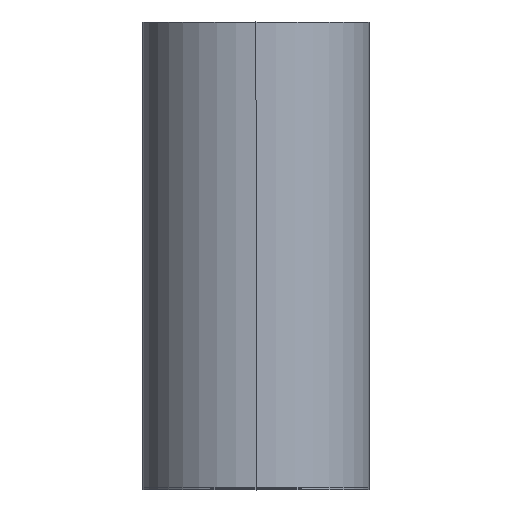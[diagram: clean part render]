
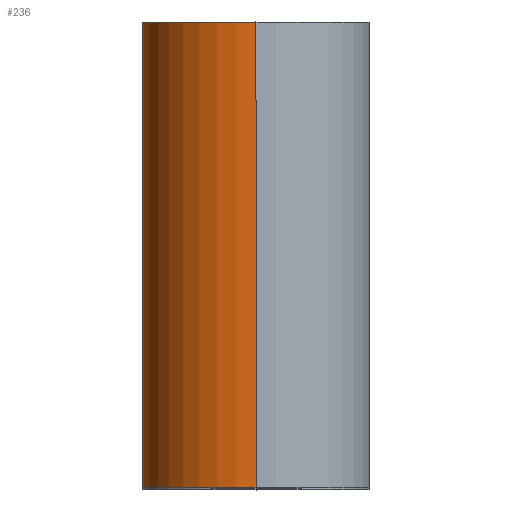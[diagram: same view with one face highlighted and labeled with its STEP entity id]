
A CAD part, top view. The second image highlights one B-rep face of the part: STEP entity #236.
In plain terms, the highlighted cylindrical face has radius 2 mm (diameter 4 mm), a partial arc.
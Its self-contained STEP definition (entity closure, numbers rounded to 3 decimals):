
#43 = VERTEX_POINT ( 'NONE', #179 ) ;
#98 = ORIENTED_EDGE ( 'NONE', *, *, #99, .T. ) ;
#99 = EDGE_CURVE ( 'NONE', #238, #242, #161, .T. ) ;
#100 = ORIENTED_EDGE ( 'NONE', *, *, #115, .T. ) ;
#101 = VERTEX_POINT ( 'NONE', #443 ) ;
#115 = EDGE_CURVE ( 'NONE', #256, #101, #346, .T. ) ;
#116 = VERTEX_POINT ( 'NONE', #342 ) ;
#117 = EDGE_LOOP ( 'NONE', ( #239, #98, #250, #100, #240, #260 ) ) ;
#158 = DIRECTION ( 'NONE',  ( 0., -1., 0. ) ) ;
#159 = VECTOR ( 'NONE', #158, 1000. ) ;
#160 = CARTESIAN_POINT ( 'NONE',  ( 0., 8.2, 2. ) ) ;
#161 = LINE ( 'NONE', #160, #159 ) ;
#179 = CARTESIAN_POINT ( 'NONE',  ( 0., 8.2, -2. ) ) ;
#236 = ADVANCED_FACE ( 'NONE', ( #513 ), #511, .T. ) ;
#238 = VERTEX_POINT ( 'NONE', #553 ) ;
#239 = ORIENTED_EDGE ( 'NONE', *, *, #264, .F. ) ;
#240 = ORIENTED_EDGE ( 'NONE', *, *, #241, .T. ) ;
#241 = EDGE_CURVE ( 'NONE', #101, #116, #552, .T. ) ;
#242 = VERTEX_POINT ( 'NONE', #663 ) ;
#250 = ORIENTED_EDGE ( 'NONE', *, *, #255, .T. ) ;
#255 = EDGE_CURVE ( 'NONE', #242, #256, #649, .T. ) ;
#256 = VERTEX_POINT ( 'NONE', #648 ) ;
#260 = ORIENTED_EDGE ( 'NONE', *, *, #261, .F. ) ;
#261 = EDGE_CURVE ( 'NONE', #43, #116, #638, .T. ) ;
#264 = EDGE_CURVE ( 'NONE', #238, #43, #631, .T. ) ;
#342 = CARTESIAN_POINT ( 'NONE',  ( 0., 0., -2. ) ) ;
#343 = DIRECTION ( 'NONE',  ( 0., -1., 0. ) ) ;
#344 = VECTOR ( 'NONE', #343, 1000. ) ;
#345 = CARTESIAN_POINT ( 'NONE',  ( 0., 8.2, 2. ) ) ;
#346 = LINE ( 'NONE', #345, #344 ) ;
#443 = CARTESIAN_POINT ( 'NONE',  ( 0., 0., 2. ) ) ;
#511 = CYLINDRICAL_SURFACE ( 'NONE', #512, 2. ) ;
#512 = AXIS2_PLACEMENT_3D ( 'NONE', #556, #555, #554 ) ;
#513 = FACE_OUTER_BOUND ( 'NONE', #117, .T. ) ;
#549 = DIRECTION ( 'NONE',  ( 0., 1., 0. ) ) ;
#550 = CARTESIAN_POINT ( 'NONE',  ( 0., 0., 0. ) ) ;
#551 = AXIS2_PLACEMENT_3D ( 'NONE', #550, #549, #664 ) ;
#552 = CIRCLE ( 'NONE', #551, 2. ) ;
#553 = CARTESIAN_POINT ( 'NONE',  ( 0., 8.2, 2. ) ) ;
#554 = DIRECTION ( 'NONE',  ( 0., 0., -1. ) ) ;
#555 = DIRECTION ( 'NONE',  ( 0., -1., 0. ) ) ;
#556 = CARTESIAN_POINT ( 'NONE',  ( 0., 8.2, 0. ) ) ;
#583 = DIRECTION ( 'NONE',  ( 0., -1., 0. ) ) ;
#584 = VECTOR ( 'NONE', #583, 1000. ) ;
#585 = CARTESIAN_POINT ( 'NONE',  ( 0., 8.2, -2. ) ) ;
#586 = CARTESIAN_POINT ( 'NONE',  ( 0., 4.4, 2. ) ) ;
#587 = CARTESIAN_POINT ( 'NONE',  ( 0.192, 4.4, 2. ) ) ;
#588 = CARTESIAN_POINT ( 'NONE',  ( 0.383, 4.44, 1.971 ) ) ;
#589 = CARTESIAN_POINT ( 'NONE',  ( 0.723, 4.584, 1.873 ) ) ;
#590 = CARTESIAN_POINT ( 'NONE',  ( 0.87, 4.689, 1.807 ) ) ;
#591 = CARTESIAN_POINT ( 'NONE',  ( 1.056, 4.877, 1.7 ) ) ;
#592 = CARTESIAN_POINT ( 'NONE',  ( 1.112, 4.945, 1.664 ) ) ;
#593 = CARTESIAN_POINT ( 'NONE',  ( 1.21, 5.091, 1.593 ) ) ;
#594 = CARTESIAN_POINT ( 'NONE',  ( 1.253, 5.171, 1.559 ) ) ;
#595 = CARTESIAN_POINT ( 'NONE',  ( 1.359, 5.421, 1.47 ) ) ;
#596 = CARTESIAN_POINT ( 'NONE',  ( 1.4, 5.609, 1.428 ) ) ;
#597 = CARTESIAN_POINT ( 'NONE',  ( 1.4, 5.99, 1.429 ) ) ;
#598 = CARTESIAN_POINT ( 'NONE',  ( 1.359, 6.181, 1.47 ) ) ;
#599 = CARTESIAN_POINT ( 'NONE',  ( 1.253, 6.431, 1.56 ) ) ;
#600 = CARTESIAN_POINT ( 'NONE',  ( 1.21, 6.509, 1.593 ) ) ;
#601 = CARTESIAN_POINT ( 'NONE',  ( 1.111, 6.655, 1.664 ) ) ;
#627 = DIRECTION ( 'NONE',  ( 0., 0., 1. ) ) ;
#628 = DIRECTION ( 'NONE',  ( 0., 1., 0. ) ) ;
#629 = CARTESIAN_POINT ( 'NONE',  ( 0., 8.2, 0. ) ) ;
#630 = AXIS2_PLACEMENT_3D ( 'NONE', #629, #628, #627 ) ;
#631 = CIRCLE ( 'NONE', #630, 2. ) ;
#632 = CARTESIAN_POINT ( 'NONE',  ( 1.055, 6.724, 1.701 ) ) ;
#633 = CARTESIAN_POINT ( 'NONE',  ( 0.931, 6.85, 1.772 ) ) ;
#634 = CARTESIAN_POINT ( 'NONE',  ( 0.863, 6.906, 1.806 ) ) ;
#635 = CARTESIAN_POINT ( 'NONE',  ( 0.715, 7.009, 1.869 ) ) ;
#636 = CARTESIAN_POINT ( 'NONE',  ( 0.635, 7.054, 1.899 ) ) ;
#637 = CARTESIAN_POINT ( 'NONE',  ( 0.466, 7.125, 1.947 ) ) ;
#638 = LINE ( 'NONE', #585, #584 ) ;
#644 = CARTESIAN_POINT ( 'NONE',  ( 0.375, 7.153, 1.967 ) ) ;
#645 = CARTESIAN_POINT ( 'NONE',  ( 0.19, 7.19, 1.993 ) ) ;
#646 = CARTESIAN_POINT ( 'NONE',  ( 0.096, 7.2, 2. ) ) ;
#647 = CARTESIAN_POINT ( 'NONE',  ( 0., 7.2, 2. ) ) ;
#648 = CARTESIAN_POINT ( 'NONE',  ( 0., 4.4, 2. ) ) ;
#649 = B_SPLINE_CURVE_WITH_KNOTS ( 'NONE', 3,
 ( #647, #646, #645, #644, #637, #636, #635, #634, #633, #632, #601, #600, #599, #598, #597, #596, #595, #594, #593, #592, #591, #590, #589, #588, #587, #586 ),
 .UNSPECIFIED., .F., .F.,
 ( 4, 2, 2, 2, 2, 2, 2, 2, 2, 2, 2, 2, 4 ),
 ( 0.005, 0.005, 0.005, 0.005, 0.006, 0.006, 0.006, 0.007, 0.007, 0.008, 0.008, 0.009, 0.009 ),
 .UNSPECIFIED. ) ;
#663 = CARTESIAN_POINT ( 'NONE',  ( 0., 7.2, 2. ) ) ;
#664 = DIRECTION ( 'NONE',  ( 0., 0., 1. ) ) ;
